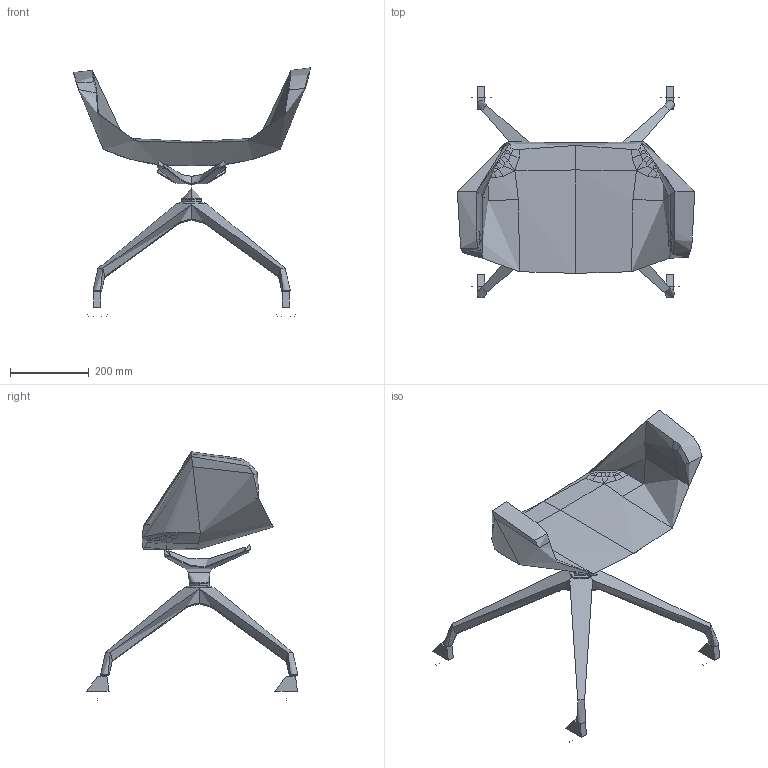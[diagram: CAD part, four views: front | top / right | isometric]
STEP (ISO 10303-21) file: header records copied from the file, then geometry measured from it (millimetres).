
FILE_DESCRIPTION(/* description */ (''),/* implementation_level */ '2;1');
FILE_NAME(/* name */ 'RIVA RI-02,F75-N6',/* time_stamp */ '2024-12-20T19:14:41+01:00',/* author */ (''),/* organization */ (''),/* preprocessor_version */ 'ST-DEVELOPER v16.5',/* originating_system */ 'Rhino 7.37',/* authorisation */ '');
FILE_SCHEMA (('CONFIG_CONTROL_DESIGN'));
Length unit declared in the file: millimetre
Products named in the file (1): Document
Bounding box: 601.93 x 536.42 x 629.66 mm (x, y, z)
Volume: 1066654.2 mm3; surface area: 1350966.4 mm2
Topology: 5 solids, 28 shells, 306 faces, 722 edges, 440 vertices
Faces by surface type: bspline 198, plane 74, cylinder 34
Full cylindrical faces by diameter (mm): 10 x4, 60 x8
Entity records: 34283 total; most frequent: CARTESIAN_POINT 29760, ORIENTED_EDGE 1370, EDGE_CURVE 710, B_SPLINE_CURVE_WITH_KNOTS 475, VERTEX_POINT 430, ADVANCED_FACE 306, FACE_OUTER_BOUND 306, EDGE_LOOP 306
